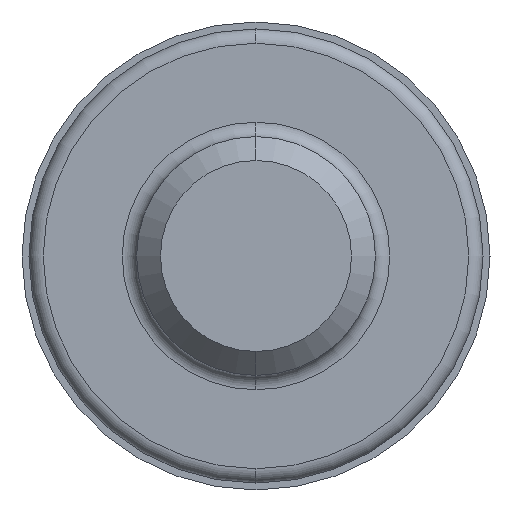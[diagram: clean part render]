
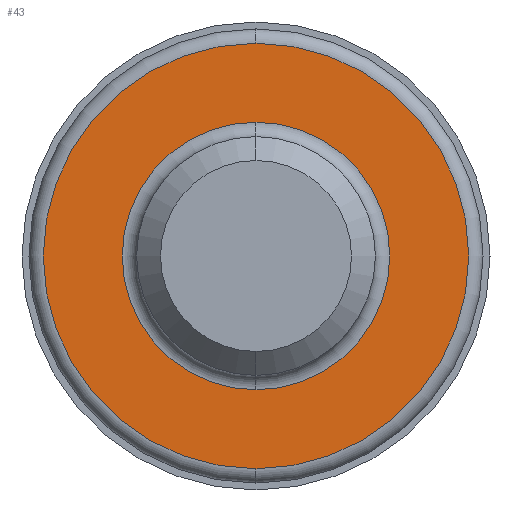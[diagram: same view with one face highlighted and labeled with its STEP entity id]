
A CAD part, left-side view. The second image highlights one B-rep face of the part: STEP entity #43.
In plain terms, the highlighted planar face has unit normal (-1, 0, 0).
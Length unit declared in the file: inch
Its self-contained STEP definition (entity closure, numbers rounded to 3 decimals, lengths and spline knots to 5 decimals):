
#43 = ADVANCED_FACE ( 'NONE', ( #112, #76 ), #687, .F. ) ;
#67 = DIRECTION ( 'NONE',  ( -1., 0., 0. ) ) ;
#76 = FACE_OUTER_BOUND ( 'NONE', #106, .T. ) ;
#80 = DIRECTION ( 'NONE',  ( 0., 0., 1. ) ) ;
#96 = ORIENTED_EDGE ( 'NONE', *, *, #533, .F. ) ;
#105 = AXIS2_PLACEMENT_3D ( 'NONE', #135, #451, #80 ) ;
#106 = EDGE_LOOP ( 'NONE', ( #107, #504 ) ) ;
#107 = ORIENTED_EDGE ( 'NONE', *, *, #571, .T. ) ;
#112 = FACE_BOUND ( 'NONE', #289, .T. ) ;
#114 = VERTEX_POINT ( 'NONE', #434 ) ;
#118 = CARTESIAN_POINT ( 'NONE',  ( 1.875, 0., 0. ) ) ;
#119 = DIRECTION ( 'NONE',  ( -1., 0., 0. ) ) ;
#135 = CARTESIAN_POINT ( 'NONE',  ( 1.875, 0., 0. ) ) ;
#145 = CARTESIAN_POINT ( 'NONE',  ( 1.875, 0., -0.445 ) ) ;
#151 = CIRCLE ( 'NONE', #482, 0.445 ) ;
#186 = CARTESIAN_POINT ( 'NONE',  ( 1.875, 0., 0.27985 ) ) ;
#284 = DIRECTION ( 'NONE',  ( 0., 0., 1. ) ) ;
#289 = EDGE_LOOP ( 'NONE', ( #416, #96 ) ) ;
#312 = AXIS2_PLACEMENT_3D ( 'NONE', #329, #658, #284 ) ;
#329 = CARTESIAN_POINT ( 'NONE',  ( 1.875, 0., 0. ) ) ;
#332 = CARTESIAN_POINT ( 'NONE',  ( 1.875, 0., 0.445 ) ) ;
#351 = CIRCLE ( 'NONE', #105, 0.27985 ) ;
#357 = DIRECTION ( 'NONE',  ( 0., 0., -1. ) ) ;
#376 = VERTEX_POINT ( 'NONE', #186 ) ;
#378 = AXIS2_PLACEMENT_3D ( 'NONE', #488, #119, #441 ) ;
#381 = DIRECTION ( 'NONE',  ( 0., 0., 1. ) ) ;
#416 = ORIENTED_EDGE ( 'NONE', *, *, #466, .F. ) ;
#425 = CARTESIAN_POINT ( 'NONE',  ( 1.875, 0.445, 0. ) ) ;
#434 = CARTESIAN_POINT ( 'NONE',  ( 1.875, 0., -0.27985 ) ) ;
#441 = DIRECTION ( 'NONE',  ( 0., 0., 1. ) ) ;
#451 = DIRECTION ( 'NONE',  ( -1., 0., 0. ) ) ;
#465 = CIRCLE ( 'NONE', #312, 0.27985 ) ;
#466 = EDGE_CURVE ( 'NONE', #376, #114, #351, .T. ) ;
#482 = AXIS2_PLACEMENT_3D ( 'NONE', #118, #67, #381 ) ;
#488 = CARTESIAN_POINT ( 'NONE',  ( 1.875, 0., 0. ) ) ;
#504 = ORIENTED_EDGE ( 'NONE', *, *, #601, .T. ) ;
#525 = VERTEX_POINT ( 'NONE', #332 ) ;
#533 = EDGE_CURVE ( 'NONE', #114, #376, #465, .T. ) ;
#560 = AXIS2_PLACEMENT_3D ( 'NONE', #425, #574, #357 ) ;
#571 = EDGE_CURVE ( 'NONE', #525, #664, #581, .T. ) ;
#574 = DIRECTION ( 'NONE',  ( 1., 0., 0. ) ) ;
#581 = CIRCLE ( 'NONE', #378, 0.445 ) ;
#601 = EDGE_CURVE ( 'NONE', #664, #525, #151, .T. ) ;
#658 = DIRECTION ( 'NONE',  ( -1., 0., 0. ) ) ;
#664 = VERTEX_POINT ( 'NONE', #145 ) ;
#687 = PLANE ( 'NONE',  #560 ) ;
